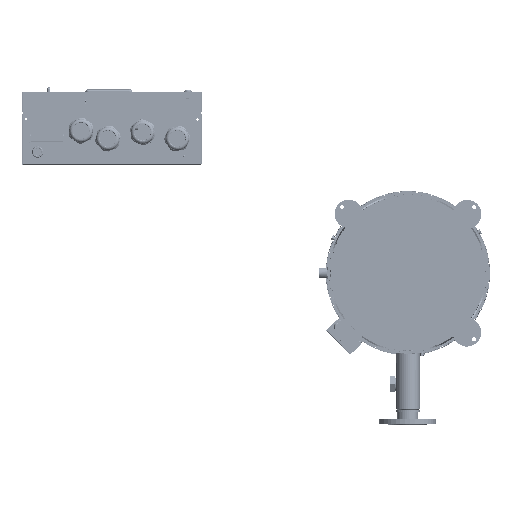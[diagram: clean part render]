
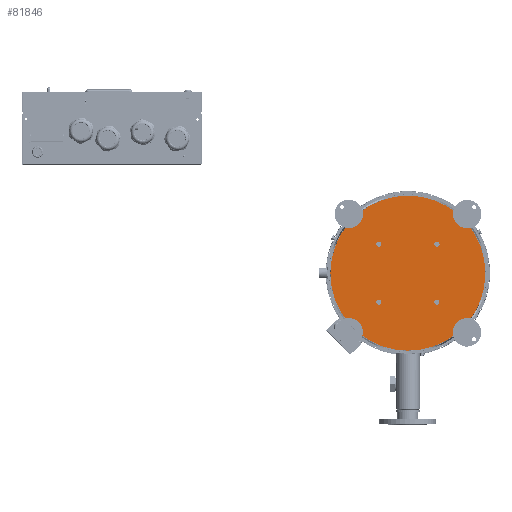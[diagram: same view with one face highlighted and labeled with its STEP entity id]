
A CAD part, front view. The second image highlights one B-rep face of the part: STEP entity #81846.
In plain terms, the highlighted planar face has unit normal (0, -1, 0).
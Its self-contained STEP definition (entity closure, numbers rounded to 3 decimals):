
#1229=FACE_BOUND('',#24675,.T.);
#1230=FACE_BOUND('',#24676,.T.);
#1231=FACE_BOUND('',#24677,.T.);
#1232=FACE_BOUND('',#24678,.T.);
#4188=PLANE('',#87089);
#6908=LINE('',#125997,#13874);
#6909=LINE('',#125998,#13875);
#13874=VECTOR('',#98596,10.);
#13875=VECTOR('',#98597,10.);
#20689=FACE_OUTER_BOUND('',#24674,.T.);
#24674=EDGE_LOOP('',(#59123,#59124,#59125));
#24675=EDGE_LOOP('',(#59126));
#24676=EDGE_LOOP('',(#59127));
#24677=EDGE_LOOP('',(#59128));
#24678=EDGE_LOOP('',(#59129));
#30171=CIRCLE('',#87075,245.5);
#30174=CIRCLE('',#87082,8.25);
#30175=CIRCLE('',#87084,8.25);
#30176=CIRCLE('',#87086,8.25);
#30177=CIRCLE('',#87088,8.25);
#35459=VERTEX_POINT('',#125926);
#35460=VERTEX_POINT('',#125928);
#35465=VERTEX_POINT('',#125980);
#35466=VERTEX_POINT('',#125984);
#35467=VERTEX_POINT('',#125988);
#35468=VERTEX_POINT('',#125992);
#35469=VERTEX_POINT('',#125996);
#44818=EDGE_CURVE('',#35460,#35459,#30171,.T.);
#44826=EDGE_CURVE('',#35465,#35465,#30174,.T.);
#44828=EDGE_CURVE('',#35466,#35466,#30175,.T.);
#44830=EDGE_CURVE('',#35467,#35467,#30176,.T.);
#44832=EDGE_CURVE('',#35468,#35468,#30177,.T.);
#44833=EDGE_CURVE('',#35459,#35469,#6908,.T.);
#44834=EDGE_CURVE('',#35469,#35460,#6909,.T.);
#59123=ORIENTED_EDGE('',*,*,#44833,.T.);
#59124=ORIENTED_EDGE('',*,*,#44834,.T.);
#59125=ORIENTED_EDGE('',*,*,#44818,.T.);
#59126=ORIENTED_EDGE('',*,*,#44832,.T.);
#59127=ORIENTED_EDGE('',*,*,#44830,.T.);
#59128=ORIENTED_EDGE('',*,*,#44828,.T.);
#59129=ORIENTED_EDGE('',*,*,#44826,.T.);
#81846=ADVANCED_FACE('',(#20689,#1229,#1230,#1231,#1232),#4188,.T.);
#87075=AXIS2_PLACEMENT_3D('',#125929,#98560,#98561);
#87082=AXIS2_PLACEMENT_3D('',#125982,#98577,#98578);
#87084=AXIS2_PLACEMENT_3D('',#125986,#98582,#98583);
#87086=AXIS2_PLACEMENT_3D('',#125990,#98587,#98588);
#87088=AXIS2_PLACEMENT_3D('',#125994,#98592,#98593);
#87089=AXIS2_PLACEMENT_3D('',#125995,#98594,#98595);
#98560=DIRECTION('center_axis',(0.,-1.,0.));
#98561=DIRECTION('ref_axis',(-1.,0.,0.001));
#98577=DIRECTION('center_axis',(0.,1.,0.));
#98578=DIRECTION('ref_axis',(-0.001,0.,
-1.));
#98582=DIRECTION('center_axis',(0.,1.,0.));
#98583=DIRECTION('ref_axis',(1.,0.,-0.001));
#98587=DIRECTION('center_axis',(0.,1.,0.));
#98588=DIRECTION('ref_axis',(0.001,0.,
1.));
#98592=DIRECTION('center_axis',(0.,1.,0.));
#98593=DIRECTION('ref_axis',(-1.,0.,0.001));
#98594=DIRECTION('center_axis',(0.,-1.,0.));
#98595=DIRECTION('ref_axis',(-1.,0.,0.001));
#98596=DIRECTION('',(-0.706,0.,0.708));
#98597=DIRECTION('',(0.708,0.,0.706));
#125926=CARTESIAN_POINT('',(-5146.931,-6079.902,-527.808));
#125928=CARTESIAN_POINT('',(-5146.925,-6079.902,-521.844));
#125929=CARTESIAN_POINT('Origin',(-5392.41,-6079.902,-524.575));
#125980=CARTESIAN_POINT('',(-5484.231,-6079.902,-424.307));
#125982=CARTESIAN_POINT('Origin',(-5484.24,-6079.902,-432.557));
#125984=CARTESIAN_POINT('',(-5492.678,-6079.902,-616.396));
#125986=CARTESIAN_POINT('Origin',(-5484.428,-6079.902,-616.404));
#125988=CARTESIAN_POINT('',(-5300.589,-6079.902,-624.843));
#125990=CARTESIAN_POINT('Origin',(-5300.58,-6079.902,-616.593));
#125992=CARTESIAN_POINT('',(-5292.142,-6079.902,-432.753));
#125994=CARTESIAN_POINT('Origin',(-5300.392,-6079.902,-432.745));
#125995=CARTESIAN_POINT('Origin',(-5392.41,-6079.902,-524.575));
#125996=CARTESIAN_POINT('',(-5149.91,-6079.902,-524.823));
#125997=CARTESIAN_POINT('',(-5208.984,-6079.902,-465.628));
#125998=CARTESIAN_POINT('',(-5210.597,-6079.902,-585.386));
